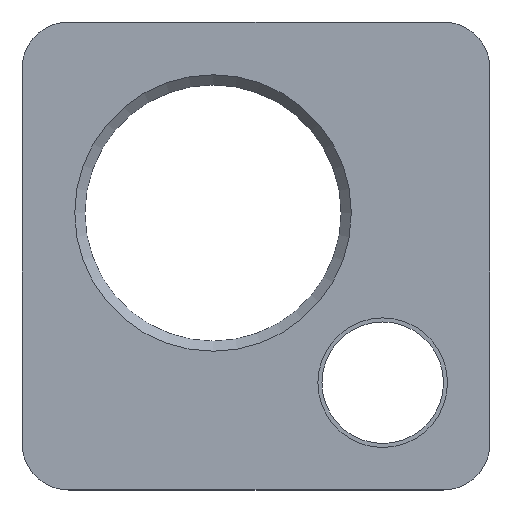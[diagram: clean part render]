
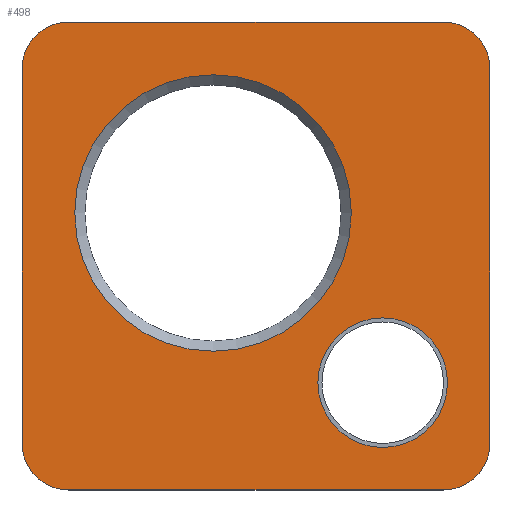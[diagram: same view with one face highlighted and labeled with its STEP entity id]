
A CAD part, top view. The second image highlights one B-rep face of the part: STEP entity #498.
In plain terms, the highlighted planar face has unit normal (0, 0, 1).
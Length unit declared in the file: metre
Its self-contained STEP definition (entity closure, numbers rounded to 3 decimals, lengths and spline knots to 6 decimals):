
#19=LINE('',#815,#35);
#24=LINE('',#829,#40);
#28=LINE('',#841,#44);
#32=LINE('',#853,#48);
#35=VECTOR('',#657,1.);
#40=VECTOR('',#670,1.);
#44=VECTOR('',#682,1.);
#48=VECTOR('',#694,1.);
#58=PLANE('',#572);
#118=ORIENTED_EDGE('',*,*,#215,.T.);
#119=ORIENTED_EDGE('',*,*,#216,.F.);
#120=ORIENTED_EDGE('',*,*,#191,.T.);
#121=ORIENTED_EDGE('',*,*,#195,.T.);
#122=ORIENTED_EDGE('',*,*,#198,.T.);
#123=ORIENTED_EDGE('',*,*,#201,.T.);
#124=ORIENTED_EDGE('',*,*,#204,.F.);
#125=ORIENTED_EDGE('',*,*,#207,.T.);
#126=ORIENTED_EDGE('',*,*,#210,.F.);
#127=ORIENTED_EDGE('',*,*,#214,.T.);
#191=EDGE_CURVE('',#247,#246,#19,.T.);
#195=EDGE_CURVE('',#246,#249,#292,.T.);
#198=EDGE_CURVE('',#249,#251,#24,.T.);
#201=EDGE_CURVE('',#251,#253,#294,.T.);
#204=EDGE_CURVE('',#255,#253,#28,.T.);
#207=EDGE_CURVE('',#255,#257,#296,.T.);
#210=EDGE_CURVE('',#259,#257,#32,.T.);
#214=EDGE_CURVE('',#259,#247,#300,.T.);
#215=EDGE_CURVE('',#262,#262,#301,.F.);
#216=EDGE_CURVE('',#263,#263,#302,.T.);
#246=VERTEX_POINT('',#814);
#247=VERTEX_POINT('',#816);
#249=VERTEX_POINT('',#822);
#251=VERTEX_POINT('',#828);
#253=VERTEX_POINT('',#834);
#255=VERTEX_POINT('',#840);
#257=VERTEX_POINT('',#846);
#259=VERTEX_POINT('',#852);
#262=VERTEX_POINT('',#864);
#263=VERTEX_POINT('',#866);
#292=CIRCLE('',#556,0.023);
#294=CIRCLE('',#560,0.023);
#296=CIRCLE('',#564,0.023);
#300=CIRCLE('',#571,0.023);
#301=CIRCLE('',#573,0.06825);
#302=CIRCLE('',#574,0.032);
#343=EDGE_LOOP('',(#118));
#344=EDGE_LOOP('',(#119));
#345=EDGE_LOOP('',(#120,#121,#122,#123,#124,#125,#126,#127));
#415=FACE_BOUND('',#343,.T.);
#416=FACE_BOUND('',#344,.T.);
#417=FACE_BOUND('',#345,.T.);
#498=ADVANCED_FACE('',(#415,#416,#417),#58,.T.);
#556=AXIS2_PLACEMENT_3D('',#823,#664,#665);
#560=AXIS2_PLACEMENT_3D('',#835,#676,#677);
#564=AXIS2_PLACEMENT_3D('',#847,#688,#689);
#571=AXIS2_PLACEMENT_3D('',#861,#705,#706);
#572=AXIS2_PLACEMENT_3D('',#862,#707,#708);
#573=AXIS2_PLACEMENT_3D('',#863,#709,#710);
#574=AXIS2_PLACEMENT_3D('',#865,#711,#712);
#657=DIRECTION('',(0.,1.,0.));
#664=DIRECTION('',(0.,0.,1.));
#665=DIRECTION('',(1.,0.,0.));
#670=DIRECTION('',(-1.,0.,0.));
#676=DIRECTION('',(0.,0.,1.));
#677=DIRECTION('',(1.,0.,0.));
#682=DIRECTION('',(0.,1.,0.));
#688=DIRECTION('',(0.,0.,1.));
#689=DIRECTION('',(1.,0.,0.));
#694=DIRECTION('',(-1.,0.,0.));
#705=DIRECTION('',(0.,0.,1.));
#706=DIRECTION('',(1.,0.,0.));
#707=DIRECTION('',(0.,0.,1.));
#708=DIRECTION('',(1.,0.,0.));
#709=DIRECTION('',(0.,0.,1.));
#710=DIRECTION('',(1.,0.,0.));
#711=DIRECTION('',(0.,0.,1.));
#712=DIRECTION('',(1.,0.,0.));
#814=CARTESIAN_POINT('',(0.1155,0.0925,0.018));
#815=CARTESIAN_POINT('',(0.1155,0.,0.018));
#816=CARTESIAN_POINT('',(0.1155,-0.0925,0.018));
#822=CARTESIAN_POINT('',(0.0925,0.1155,0.018));
#823=CARTESIAN_POINT('',(0.0925,0.0925,0.018));
#828=CARTESIAN_POINT('',(-0.0925,0.1155,0.018));
#829=CARTESIAN_POINT('',(0.,0.1155,0.018));
#834=CARTESIAN_POINT('',(-0.1155,0.0925,0.018));
#835=CARTESIAN_POINT('',(-0.0925,0.0925,0.018));
#840=CARTESIAN_POINT('',(-0.1155,-0.0925,0.018));
#841=CARTESIAN_POINT('',(-0.1155,0.,0.018));
#846=CARTESIAN_POINT('',(-0.0925,-0.1155,0.018));
#847=CARTESIAN_POINT('',(-0.0925,-0.0925,0.018));
#852=CARTESIAN_POINT('',(0.0925,-0.1155,0.018));
#853=CARTESIAN_POINT('',(0.,-0.1155,0.018));
#861=CARTESIAN_POINT('',(0.0925,-0.0925,0.018));
#862=CARTESIAN_POINT('',(0.,0.,0.018));
#863=CARTESIAN_POINT('',(-0.021213,0.021213,0.018));
#864=CARTESIAN_POINT('',(0.047037,0.021213,0.018));
#865=CARTESIAN_POINT('',(0.06255,-0.06255,0.018));
#866=CARTESIAN_POINT('',(0.09455,-0.06255,0.018));
